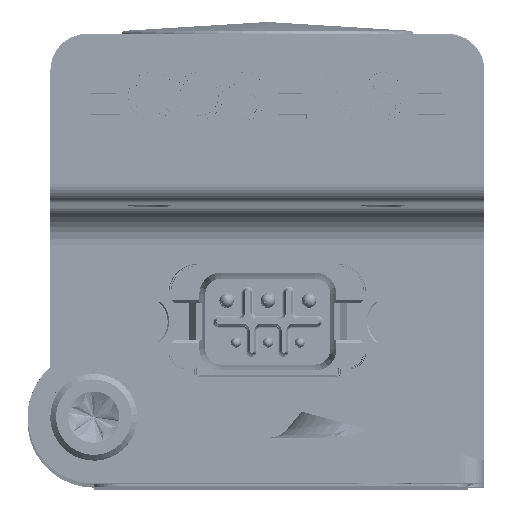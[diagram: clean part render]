
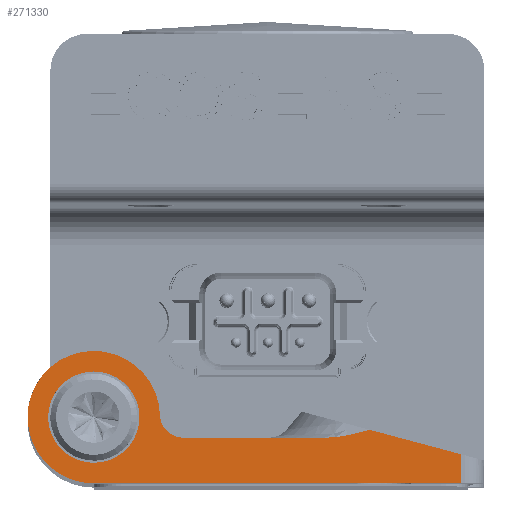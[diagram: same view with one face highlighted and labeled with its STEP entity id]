
A CAD part, top view. The second image highlights one B-rep face of the part: STEP entity #271330.
In plain terms, the highlighted planar face has unit normal (0, 0, 1).
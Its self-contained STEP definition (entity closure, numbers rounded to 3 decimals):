
#13729 = AXIS2_PLACEMENT_3D ( 'NONE', #316601, #36675, #527655 ) ;
#14284 = ORIENTED_EDGE ( 'NONE', *, *, #48764, .T. ) ;
#30008 = DIRECTION ( 'NONE',  ( -1., 0., 0. ) ) ;
#36675 = DIRECTION ( 'NONE',  ( 0., 0., -1. ) ) ;
#37494 = CARTESIAN_POINT ( 'NONE',  ( -9.939, -42.49, 9.525 ) ) ;
#44026 = CARTESIAN_POINT ( 'NONE',  ( 5.576, -42.49, 9.525 ) ) ;
#48764 = EDGE_CURVE ( 'NONE', #544340, #443457, #408590, .T. ) ;
#91426 = CARTESIAN_POINT ( 'NONE',  ( 6.417, -42.49, 9.525 ) ) ;
#96158 = CARTESIAN_POINT ( 'NONE',  ( -19.725, -40.24, 9.525 ) ) ;
#121981 = CARTESIAN_POINT ( 'NONE',  ( -19.725, -40.24, 9.525 ) ) ;
#135457 = EDGE_CURVE ( 'NONE', #691052, #139290, #626069, .T. ) ;
#139290 = VERTEX_POINT ( 'NONE', #186388 ) ;
#141562 = EDGE_CURVE ( 'NONE', #577494, #172911, #178427, .T. ) ;
#149423 = CARTESIAN_POINT ( 'NONE',  ( 9.669, -41.864, 9.525 ) ) ;
#154343 = DIRECTION ( 'NONE',  ( 1., 0., 0. ) ) ;
#165012 = DIRECTION ( 'NONE',  ( 0., 0., -1. ) ) ;
#172911 = VERTEX_POINT ( 'NONE', #415757 ) ;
#174877 = CARTESIAN_POINT ( 'NONE',  ( 20.485, -40.24, 9.525 ) ) ;
#175620 = EDGE_CURVE ( 'NONE', #443457, #544340, #215055, .T. ) ;
#178427 = LINE ( 'NONE', #174877, #207722 ) ;
#186388 = CARTESIAN_POINT ( 'NONE',  ( -19.725, -47.49, 9.525 ) ) ;
#187177 = FACE_BOUND ( 'NONE', #643225, .T. ) ;
#188665 = VERTEX_POINT ( 'NONE', #515672 ) ;
#207722 = VECTOR ( 'NONE', #229376, 1000. ) ;
#208541 = ORIENTED_EDGE ( 'NONE', *, *, #714468, .T. ) ;
#215055 = CIRCLE ( 'NONE', #493984, 5. ) ;
#229376 = DIRECTION ( 'NONE',  ( 0., 1., 0. ) ) ;
#250853 = VECTOR ( 'NONE', #347726, 1000. ) ;
#251414 = CARTESIAN_POINT ( 'NONE',  ( 7.239, -42.386, 9.525 ) ) ;
#271330 = ADVANCED_FACE ( 'NONE', ( #685786, #187177 ), #408941, .T. ) ;
#305925 = CARTESIAN_POINT ( 'NONE',  ( 8.866, -42.074, 9.525 ) ) ;
#312618 = AXIS2_PLACEMENT_3D ( 'NONE', #96158, #423391, #638224 ) ;
#314315 = ORIENTED_EDGE ( 'NONE', *, *, #668632, .T. ) ;
#316363 = CIRCLE ( 'NONE', #711251, 2.54 ) ;
#316601 = CARTESIAN_POINT ( 'NONE',  ( -19.725, -40.24, 9.525 ) ) ;
#318361 = ORIENTED_EDGE ( 'NONE', *, *, #175620, .T. ) ;
#339980 = VECTOR ( 'NONE', #639029, 1000. ) ;
#341245 = VERTEX_POINT ( 'NONE', #639985 ) ;
#343023 = ORIENTED_EDGE ( 'NONE', *, *, #679466, .T. ) ;
#347726 = DIRECTION ( 'NONE',  ( -0.966, 0.259, 0. ) ) ;
#362504 = LINE ( 'NONE', #533513, #339980 ) ;
#365424 = EDGE_CURVE ( 'NONE', #139290, #577494, #394776, .T. ) ;
#381520 = EDGE_CURVE ( 'NONE', #188665, #341245, #536530, .T. ) ;
#384138 = DIRECTION ( 'NONE',  ( 1., 0., 0. ) ) ;
#394776 = LINE ( 'NONE', #660932, #616705 ) ;
#398588 = LINE ( 'NONE', #613615, #250853 ) ;
#404249 = DIRECTION ( 'NONE',  ( 1., 0., 0. ) ) ;
#408590 = CIRCLE ( 'NONE', #13729, 5. ) ;
#408941 = PLANE ( 'NONE',  #312618 ) ;
#415757 = CARTESIAN_POINT ( 'NONE',  ( 20.485, -44.309, 9.525 ) ) ;
#423391 = DIRECTION ( 'NONE',  ( 0., 0., 1. ) ) ;
#432527 = VERTEX_POINT ( 'NONE', #37494 ) ;
#443457 = VERTEX_POINT ( 'NONE', #612982 ) ;
#489573 = CARTESIAN_POINT ( 'NONE',  ( -12.478, -40.025, 9.525 ) ) ;
#492725 = CARTESIAN_POINT ( 'NONE',  ( 20.485, -47.49, 9.525 ) ) ;
#493984 = AXIS2_PLACEMENT_3D ( 'NONE', #121981, #511222, #30008 ) ;
#504410 = EDGE_LOOP ( 'NONE', ( #611584, #602371, #343023, #623090, #314315, #208541, #681996 ) ) ;
#511222 = DIRECTION ( 'NONE',  ( 0., 0., -1. ) ) ;
#515672 = CARTESIAN_POINT ( 'NONE',  ( 10.468, -41.625, 9.525 ) ) ;
#524381 = CARTESIAN_POINT ( 'NONE',  ( -19.725, -40.24, 9.525 ) ) ;
#527655 = DIRECTION ( 'NONE',  ( -1., 0., 0. ) ) ;
#533513 = CARTESIAN_POINT ( 'NONE',  ( -12.833, -42.49, 9.525 ) ) ;
#536530 = B_SPLINE_CURVE_WITH_KNOTS ( 'NONE', 3,
 ( #589714, #149423, #305925, #251414, #91426, #44026 ),
 .UNSPECIFIED., .F., .F.,
 ( 4, 2, 4 ),
 ( 0., 0.002, 0.005 ),
 .UNSPECIFIED. ) ;
#544340 = VERTEX_POINT ( 'NONE', #598712 ) ;
#571804 = DIRECTION ( 'NONE',  ( 0., 0., 1. ) ) ;
#577494 = VERTEX_POINT ( 'NONE', #492725 ) ;
#589714 = CARTESIAN_POINT ( 'NONE',  ( 10.468, -41.625, 9.525 ) ) ;
#598712 = CARTESIAN_POINT ( 'NONE',  ( -14.725, -40.24, 9.525 ) ) ;
#602371 = ORIENTED_EDGE ( 'NONE', *, *, #141562, .T. ) ;
#611584 = ORIENTED_EDGE ( 'NONE', *, *, #365424, .T. ) ;
#612982 = CARTESIAN_POINT ( 'NONE',  ( -24.725, -40.24, 9.525 ) ) ;
#613615 = CARTESIAN_POINT ( 'NONE',  ( 23.025, -44.99, 9.525 ) ) ;
#616705 = VECTOR ( 'NONE', #384138, 1000. ) ;
#623090 = ORIENTED_EDGE ( 'NONE', *, *, #381520, .T. ) ;
#626069 = CIRCLE ( 'NONE', #684389, 7.25 ) ;
#638224 = DIRECTION ( 'NONE',  ( 1., 0., 0. ) ) ;
#639029 = DIRECTION ( 'NONE',  ( -1., 0., 0. ) ) ;
#639985 = CARTESIAN_POINT ( 'NONE',  ( 5.576, -42.49, 9.525 ) ) ;
#643225 = EDGE_LOOP ( 'NONE', ( #318361, #14284 ) ) ;
#652825 = CARTESIAN_POINT ( 'NONE',  ( -9.939, -39.95, 9.525 ) ) ;
#660932 = CARTESIAN_POINT ( 'NONE',  ( -19.725, -47.49, 9.525 ) ) ;
#668632 = EDGE_CURVE ( 'NONE', #341245, #432527, #362504, .T. ) ;
#679466 = EDGE_CURVE ( 'NONE', #172911, #188665, #398588, .T. ) ;
#681996 = ORIENTED_EDGE ( 'NONE', *, *, #135457, .T. ) ;
#684389 = AXIS2_PLACEMENT_3D ( 'NONE', #524381, #571804, #404249 ) ;
#685786 = FACE_OUTER_BOUND ( 'NONE', #504410, .T. ) ;
#691052 = VERTEX_POINT ( 'NONE', #489573 ) ;
#711251 = AXIS2_PLACEMENT_3D ( 'NONE', #652825, #165012, #154343 ) ;
#714468 = EDGE_CURVE ( 'NONE', #432527, #691052, #316363, .T. ) ;
